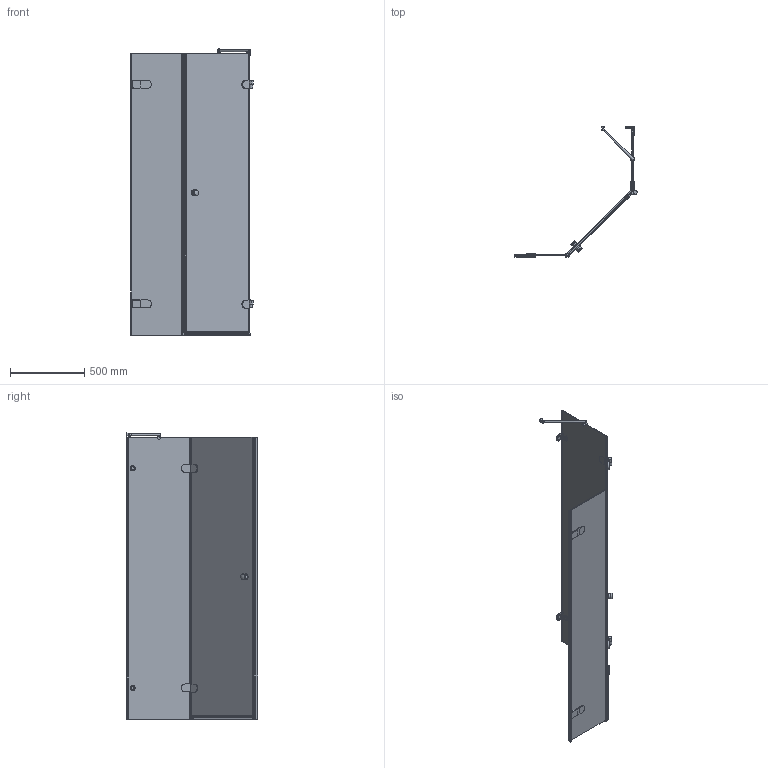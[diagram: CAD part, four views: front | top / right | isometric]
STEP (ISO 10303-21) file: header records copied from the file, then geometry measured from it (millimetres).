
FILE_DESCRIPTION(/* description */ (''),/* implementation_level */ '2;1');
FILE_NAME(/* name */ 'E:\Работа\Сергей\Душевые кабинки\! Работа\fest\LUX FESTT GK-001-2522P\LUX FESTT GK-001-2522P правая модель\LUX FESTT GK-001-2522P ПРАВАЯ-3D.stp',/* time_stamp */ '2018-03-17T18:50:23+03:00',/* author */ ('PC'),/* organization */ (''),/* preprocessor_version */ 'ST-DEVELOPER v15.2',/* originating_system */ 'Autodesk Inventor 2014',/* authorisation */ '');
FILE_SCHEMA (('AUTOMOTIVE_DESIGN { 1 0 10303 214 3 1 1 }'));
Length unit declared in the file: millimetre
Products named in the file (1): LUX FESTT GK-001-2522P ПРАВАЯ-
3D
Bounding box: 825.45 x 885.71 x 1931.53 mm (x, y, z)
Volume: 17052614.1 mm3; surface area: 5800479.6 mm2
Topology: 4 solids, 4 shells, 651 faces, 1679 edges, 1064 vertices
Faces by surface type: plane 437, cylinder 173, torus 17, bspline 14, sphere 8, cone 2
Full cylindrical faces by diameter (mm): 12 x1, 15 x1, 20 x2, 26 x1, 30 x2, 35 x2, 38 x4, 40 x2
Entity records: 20656 total; most frequent: CARTESIAN_POINT 4201, ORIENTED_EDGE 3268, DIRECTION 3221, EDGE_CURVE 1632, LINE 1187, VECTOR 1187, VERTEX_POINT 1050, AXIS2_PLACEMENT_3D 1017
